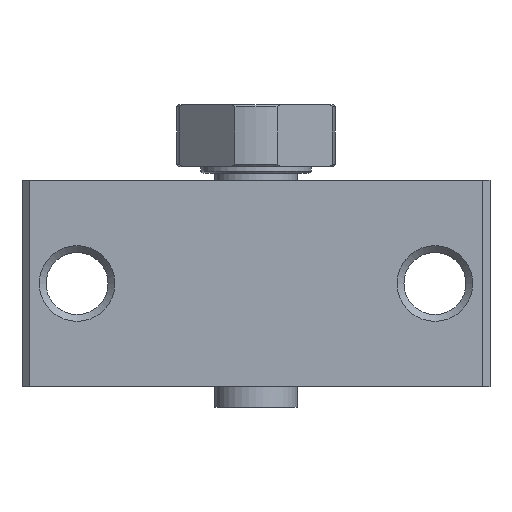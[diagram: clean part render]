
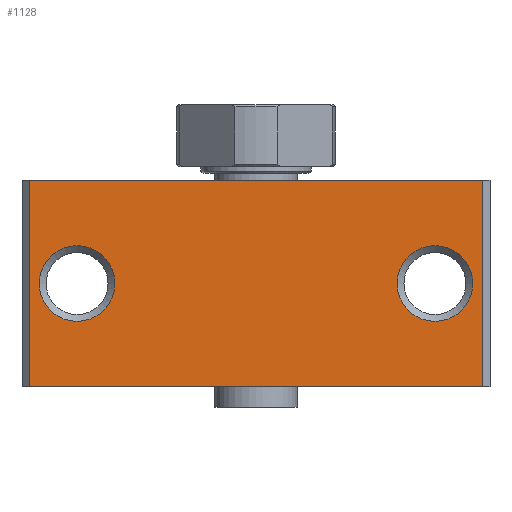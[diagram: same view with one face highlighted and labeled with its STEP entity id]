
A CAD part, front view. The second image highlights one B-rep face of the part: STEP entity #1128.
In plain terms, the highlighted planar face has unit normal (0, -1, 0).
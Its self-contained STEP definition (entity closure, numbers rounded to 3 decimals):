
#86=LINE('',#1736,#162);
#90=LINE('',#1752,#166);
#104=LINE('',#1786,#180);
#105=LINE('',#1792,#181);
#162=VECTOR('',#1386,1000.);
#166=VECTOR('',#1400,1000.);
#180=VECTOR('',#1426,1000.);
#181=VECTOR('',#1433,1000.);
#232=PLANE('',#1248);
#310=ORIENTED_EDGE('',*,*,#597,.F.);
#311=ORIENTED_EDGE('',*,*,#598,.F.);
#312=ORIENTED_EDGE('',*,*,#579,.F.);
#313=ORIENTED_EDGE('',*,*,#596,.F.);
#314=ORIENTED_EDGE('',*,*,#572,.T.);
#315=ORIENTED_EDGE('',*,*,#599,.T.);
#572=EDGE_CURVE('',#719,#718,#86,.T.);
#579=EDGE_CURVE('',#725,#726,#90,.T.);
#596=EDGE_CURVE('',#719,#725,#104,.T.);
#597=EDGE_CURVE('',#740,#740,#822,.T.);
#598=EDGE_CURVE('',#741,#741,#823,.T.);
#599=EDGE_CURVE('',#718,#726,#105,.T.);
#718=VERTEX_POINT('',#1735);
#719=VERTEX_POINT('',#1737);
#725=VERTEX_POINT('',#1751);
#726=VERTEX_POINT('',#1753);
#740=VERTEX_POINT('',#1789);
#741=VERTEX_POINT('',#1791);
#822=CIRCLE('',#1249,2.75);
#823=CIRCLE('',#1250,2.75);
#878=EDGE_LOOP('',(#310));
#879=EDGE_LOOP('',(#311));
#880=EDGE_LOOP('',(#312,#313,#314,#315));
#996=FACE_BOUND('',#878,.T.);
#997=FACE_BOUND('',#879,.T.);
#998=FACE_BOUND('',#880,.T.);
#1128=ADVANCED_FACE('',(#996,#997,#998),#232,.T.);
#1248=AXIS2_PLACEMENT_3D('',#1787,#1427,#1428);
#1249=AXIS2_PLACEMENT_3D('',#1788,#1429,#1430);
#1250=AXIS2_PLACEMENT_3D('',#1790,#1431,#1432);
#1386=DIRECTION('',(1.,0.,0.));
#1400=DIRECTION('',(1.,0.,0.));
#1426=DIRECTION('',(0.,0.,1.));
#1427=DIRECTION('',(0.,-1.,0.));
#1428=DIRECTION('',(0.,0.,-1.));
#1429=DIRECTION('',(0.,-1.,0.));
#1430=DIRECTION('',(0.,0.,-1.));
#1431=DIRECTION('',(0.,-1.,0.));
#1432=DIRECTION('',(0.,0.,-1.));
#1433=DIRECTION('',(0.,0.,1.));
#1735=CARTESIAN_POINT('',(16.46,-10.,-15.));
#1736=CARTESIAN_POINT('',(-16.46,-10.,-15.));
#1737=CARTESIAN_POINT('',(-16.46,-10.,-15.));
#1751=CARTESIAN_POINT('',(-16.46,-10.,0.));
#1752=CARTESIAN_POINT('',(-16.46,-10.,0.));
#1753=CARTESIAN_POINT('',(16.46,-10.,0.));
#1786=CARTESIAN_POINT('',(-16.46,-10.,-15.));
#1787=CARTESIAN_POINT('',(-16.46,-10.,-15.));
#1788=CARTESIAN_POINT('',(13.,-10.,-7.5));
#1789=CARTESIAN_POINT('',(13.,-10.,-10.25));
#1790=CARTESIAN_POINT('',(-13.,-10.,-7.5));
#1791=CARTESIAN_POINT('',(-13.,-10.,-10.25));
#1792=CARTESIAN_POINT('',(16.46,-10.,-15.));
